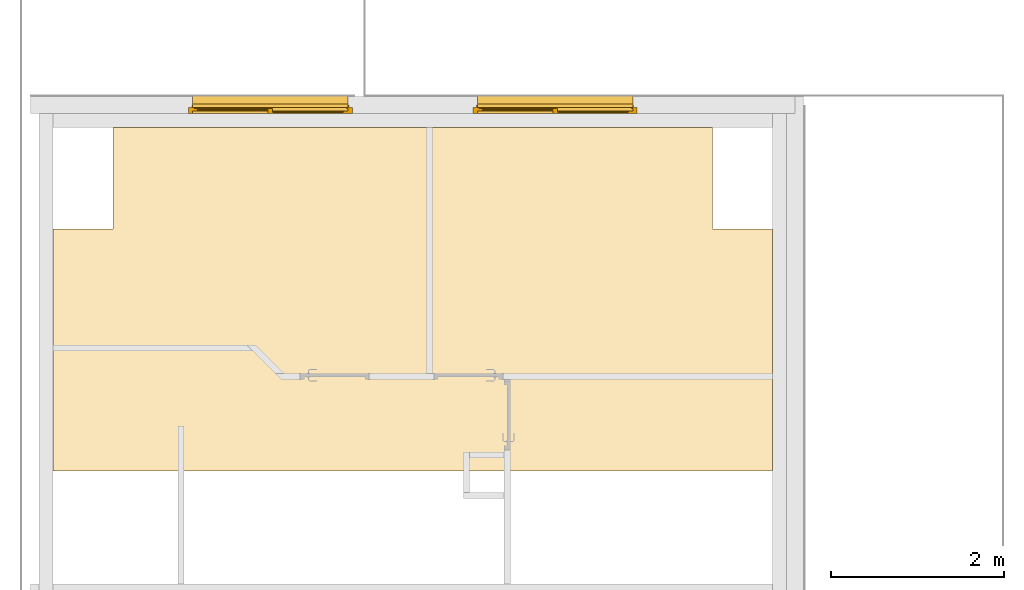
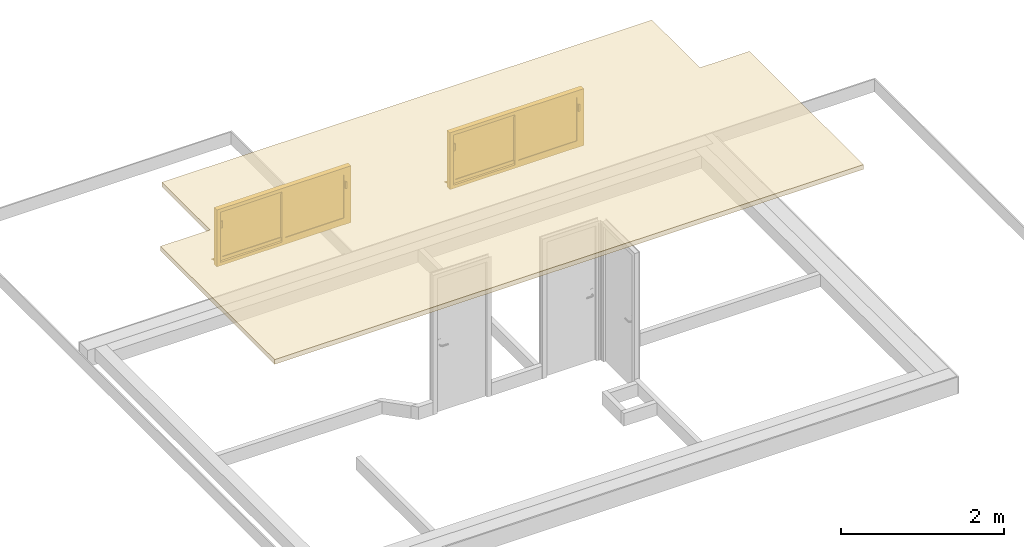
# One storey, part 5 of 5: 2 windows, 1 covering.
"""IFC2X3 building model written with IfcOpenShell, lengths in centimetres."""

import ifcopenshell
import ifcopenshell.guid

model = None  # the IFC model being written
_history = None  # IfcOwnerHistory: only IFC2X3 demands one
_inside = {}  # id of a spatial element -> (the spatial element, [elements in it])
_under = {}  # id of a project, library or spatial element -> (it, [spatial elements below it])
_declared = {}  # id of a project -> (the project, [libraries it declares])
_typed = {}  # id of a type object -> (the type object, [elements of that type])
_made_of = {}  # id of a material, layer set ... -> (it, [elements and type objects made of it])


def new_model(schema):
    """Start an empty IFC model of exactly this schema.

    Asked for "IFC4X3", IfcOpenShell would pick the latest addendum, in which some entities
    have other attributes; the version numbers below select the first issue.
    IFC2X3 requires an IfcOwnerHistory on every rooted entity: one is made here for all.
    """
    global model, _history
    if schema == "IFC4X3":
        model = ifcopenshell.file(schema_version=(4, 3, 0, 0))
    else:
        model = ifcopenshell.file(schema=schema)
    _inside.clear()
    _under.clear()
    _declared.clear()
    _typed.clear()
    _made_of.clear()
    _history = None
    if model.schema == "IFC2X3":
        org = make("IfcOrganization", Name="unknown")
        user = make(
            "IfcPersonAndOrganization",
            ThePerson=make("IfcPerson", FamilyName="unknown"),
            TheOrganization=org,
        )
        app = make(
            "IfcApplication",
            ApplicationDeveloper=org,
            Version="unknown",
            ApplicationFullName="unknown",
            ApplicationIdentifier="unknown",
        )
        _history = make(
            "IfcOwnerHistory",
            OwningUser=user,
            OwningApplication=app,
            ChangeAction="ADDED",
            CreationDate=0,
        )
    return model


def make(cls, **values):
    """One entity of the class cls with the attributes given. An attribute that is None is left unset."""
    return model.create_entity(
        cls, **{name: value for name, value in values.items() if value is not None}
    )


def entity(cls, *values):
    """Any entity or typed value of the class cls, its attributes in the order of the schema. None: left unset."""
    e = model.create_entity(cls)
    for i, value in enumerate(values):
        if value is not None:
            e[i] = value
    return e


def rooted(cls, **values):
    """An entity with a GlobalId (a new one), such as an element, a storey or a relation."""
    return make(cls, GlobalId=ifcopenshell.guid.new(), OwnerHistory=_history, **values)


def si_unit(unit_type, name, prefix=None):
    """IfcSIUnit, for example si_unit("LENGTHUNIT", "METRE", prefix="MILLI")."""
    return make("IfcSIUnit", UnitType=unit_type, Prefix=prefix, Name=name)


def converted_unit(unit_type, name, factor, base, dimensions=None, offset=None):
    """IfcConversionBasedUnit, such as the inch: factor (a typed value) times the base unit."""
    return make(
        "IfcConversionBasedUnit"
        if offset is None
        else "IfcConversionBasedUnitWithOffset",
        ConversionOffset=offset,
        Dimensions=None
        if dimensions is None
        else entity("IfcDimensionalExponents", *dimensions),
        UnitType=unit_type,
        Name=name,
        ConversionFactor=make(
            "IfcMeasureWithUnit", ValueComponent=factor, UnitComponent=base
        ),
    )


def derived_unit(unit_type, elements):
    """IfcDerivedUnit: a product of units, each with its exponent."""
    return make(
        "IfcDerivedUnit",
        Elements=[
            make("IfcDerivedUnitElement", Unit=unit, Exponent=power)
            for unit, power in elements
        ],
        UnitType=unit_type,
    )


def assignment(units):
    """IfcUnitAssignment: the units of a project."""
    return None if units is None else make("IfcUnitAssignment", Units=units)


def point(xyz):
    """IfcCartesianPoint."""
    return None if xyz is None else make("IfcCartesianPoint", Coordinates=xyz)


def direction(xyz):
    """IfcDirection."""
    return None if xyz is None else make("IfcDirection", DirectionRatios=xyz)


def frame(location, z_axis=None, x_axis=None):
    """IfcAxis2Placement3D, a coordinate frame: its origin and axes. An axis left out is left unset."""
    return make(
        "IfcAxis2Placement3D",
        Location=point(location),
        Axis=direction(z_axis),
        RefDirection=direction(x_axis),
    )


def origin():
    """The frame at (0, 0, 0) with its axes left unset."""
    return frame((0.0, 0.0, 0.0))


def place(relative_to, where):
    """IfcLocalPlacement: puts the frame where relative to a parent placement (None: the world)."""
    return make(
        "IfcLocalPlacement", PlacementRelTo=relative_to, RelativePlacement=where
    )


def context(
    kind, dimensions, precision=None, world=None, true_north=None, identifier=None
):
    """IfcGeometricRepresentationContext, for example the 3D "Model" context."""
    return make(
        "IfcGeometricRepresentationContext",
        ContextIdentifier=identifier,
        ContextType=kind,
        CoordinateSpaceDimension=dimensions,
        Precision=precision,
        WorldCoordinateSystem=world,
        TrueNorth=true_north,
    )


def subcontext(parent, identifier, kind, view, scale=None):
    """IfcGeometricRepresentationSubContext, for example "Body" below "Model"."""
    return make(
        "IfcGeometricRepresentationSubContext",
        ContextIdentifier=identifier,
        ContextType=kind,
        ParentContext=parent,
        TargetScale=scale,
        TargetView=view,
    )


def project(units=None, contexts=None):
    """IfcProject with its units and contexts."""
    return rooted(
        "IfcProject",
        Name="project",
        RepresentationContexts=contexts,
        UnitsInContext=assignment(units),
    )


def spatial(cls, under=None, at=None, **own):
    """A site, building, storey or space (cls), placed at a placement, below another one or the project."""
    s = rooted(cls, ObjectPlacement=at, **own)
    if under is not None:
        _under.setdefault(under.id(), (under, []))[1].append(s)
    return s


def polyline(points):
    """IfcPolyline through the points."""
    return make("IfcPolyline", Points=[point(p) for p in points])


def outline(outer, holes=None, kind="AREA"):
    """IfcArbitraryClosedProfileDef: a profile drawn as a closed curve; with holes, ...WithVoids."""
    if holes is None:
        return make("IfcArbitraryClosedProfileDef", ProfileType=kind, OuterCurve=outer)
    return make(
        "IfcArbitraryProfileDefWithVoids",
        ProfileType=kind,
        OuterCurve=outer,
        InnerCurves=holes,
    )


def extrude(swept, where, along, depth):
    """IfcExtrudedAreaSolid: the profile swept, set in the frame where, extruded along a direction by depth."""
    return make(
        "IfcExtrudedAreaSolid",
        SweptArea=swept,
        Position=where,
        ExtrudedDirection=direction(along),
        Depth=depth,
    )


def faces_of(points, faces, orient=None, outer=None):
    """IfcFace entities. A face is a list of loops; a loop is a list of indices into points, from 0.

    orient and outer hold one flag for each loop. By default every Orientation is true, the
    first loop of a face is its IfcFaceOuterBound and the others are IfcFaceBound.
    """
    made = []
    for i, loops in enumerate(faces):
        bounds = []
        for j, loop in enumerate(loops):
            is_outer = j == 0 if outer is None else outer[i][j]
            bounds.append(
                make(
                    "IfcFaceOuterBound" if is_outer else "IfcFaceBound",
                    Bound=make("IfcPolyLoop", Polygon=[points[k] for k in loop]),
                    Orientation=True if orient is None else orient[i][j],
                )
            )
        made.append(make("IfcFace", Bounds=bounds))
    return made


def faceted_brep(points, faces, orient=None, outer=None, voids=None):
    """IfcFacetedBrep: a solid bounded by flat faces; with voids (closed shells), ...WithVoids."""
    shared = [point(p) for p in points]
    hull = make("IfcClosedShell", CfsFaces=faces_of(shared, faces, orient, outer))
    if voids is None:
        return make("IfcFacetedBrep", Outer=hull)
    return make(
        "IfcFacetedBrepWithVoids",
        Outer=hull,
        Voids=[
            make(cls, CfsFaces=faces_of(shared, fs, o, b)) for cls, fs, o, b in voids
        ],
    )


def shape(context_of_items, identifier, shape_type, items):
    """IfcShapeRepresentation: the items that make up one representation, for example the "Body"."""
    return make(
        "IfcShapeRepresentation",
        ContextOfItems=context_of_items,
        RepresentationIdentifier=identifier,
        RepresentationType=shape_type,
        Items=items,
    )


def source(mapping_origin, context_of_items, identifier, shape_type, items):
    """IfcRepresentationMap: a shape defined once, which mapped items show again and again."""
    return make(
        "IfcRepresentationMap",
        MappingOrigin=mapping_origin,
        MappedRepresentation=shape(context_of_items, identifier, shape_type, items),
    )


def transform(
    local_origin,
    x_axis=None,
    y_axis=None,
    z_axis=None,
    scale=None,
    scale2=None,
    scale3=None,
    uniform=True,
):
    """IfcCartesianTransformationOperator3D, or its non-uniform kind. x_axis, y_axis, z_axis: its Axis1, 2, 3."""
    if uniform:
        return make(
            "IfcCartesianTransformationOperator3D",
            Axis1=direction(x_axis),
            Axis2=direction(y_axis),
            LocalOrigin=point(local_origin),
            Scale=scale,
            Axis3=direction(z_axis),
        )
    return make(
        "IfcCartesianTransformationOperator3DnonUniform",
        Axis1=direction(x_axis),
        Axis2=direction(y_axis),
        LocalOrigin=point(local_origin),
        Scale=scale,
        Axis3=direction(z_axis),
        Scale2=scale2,
        Scale3=scale3,
    )


def mapped(mapping_source, mapping_target):
    """IfcMappedItem: shows the shape of a source again, moved by a transform."""
    return make(
        "IfcMappedItem", MappingSource=mapping_source, MappingTarget=mapping_target
    )


def material(Name=None, Category=None):
    """IfcMaterial."""
    return make("IfcMaterial", Name=Name, Category=Category)


def material_list(materials):
    """IfcMaterialList."""
    return make("IfcMaterialList", Materials=materials)


def layer(
    of_material, thickness, ventilated=None, Name=None, Category=None, Priority=None
):
    """IfcMaterialLayer: one layer of a wall or slab, of a material (None: an air gap)."""
    return make(
        "IfcMaterialLayer",
        Material=of_material,
        LayerThickness=thickness,
        IsVentilated=ventilated,
        Name=Name,
        Category=Category,
        Priority=Priority,
    )


def layer_set(layers, Name=None):
    """IfcMaterialLayerSet."""
    return make("IfcMaterialLayerSet", MaterialLayers=layers, LayerSetName=Name)


def layer_usage(for_layer_set, set_direction, sense, offset, extent=None):
    """IfcMaterialLayerSetUsage: how a layer set lies in its element."""
    return make(
        "IfcMaterialLayerSetUsage",
        ForLayerSet=for_layer_set,
        LayerSetDirection=set_direction,
        DirectionSense=sense,
        OffsetFromReferenceLine=offset,
        ReferenceExtent=extent,
    )


def made_of(thing, what):
    """Note that an element or type object is made of a material, layer set ...; save() writes the relation."""
    if what is not None:
        _made_of.setdefault(what.id(), (what, []))[1].append(thing)
    return thing


def type_object(cls, material=None, **own):
    """A type object (cls), such as IfcWallType, which elements share."""
    return made_of(rooted(cls, **own), material)


def type_shapes(of_type, sources):
    """Give a type object the sources (RepresentationMaps) that its elements show as mapped items."""
    of_type.RepresentationMaps = sources


def element(
    cls,
    number,
    at=None,
    inside=None,
    cuts=None,
    type_object=None,
    material=None,
    context=None,
    identifier="Body",
    shape_type=None,
    held_by="IfcProductDefinitionShape",
    body=None,
    shapes=None,
    **own,
):
    """One element of the class cls, such as IfcWall. Its Tag is "e" and its number.

    at: its placement. inside: the storey or other place that contains it. cuts: it is an
    opening in that element (IfcRelVoidsElement). A single representation is given by context,
    identifier, shape_type and body (its items); several are given by shapes. held_by: the class
    of the entity that holds the representations. save() writes the other relations.
    """
    e = rooted(cls, Tag="e%d" % number, ObjectPlacement=at, **own)
    if body is not None:
        shapes = [shape(context, identifier, shape_type, body)]
    if shapes is not None:
        e.Representation = make(held_by, Representations=shapes)
    if inside is not None:
        _inside.setdefault(inside.id(), (inside, []))[1].append(e)
    if cuts is not None:
        rooted(
            "IfcRelVoidsElement", RelatingBuildingElement=cuts, RelatedOpeningElement=e
        )
    if type_object is not None:
        _typed.setdefault(type_object.id(), (type_object, []))[1].append(e)
    return made_of(e, material)


def aggregate(whole, parts):
    """IfcRelAggregates: a whole, such as a stair, and the parts it consists of."""
    return rooted("IfcRelAggregates", RelatingObject=whole, RelatedObjects=parts)


def save(model, path):
    """Write the relations noted so far, then the file.

    IfcRelAggregates (storeys below a building ...), IfcRelContainedInSpatialStructure (elements
    in a storey), IfcRelDefinesByType, IfcRelAssociatesMaterial and IfcRelDeclares: one each for
    every whole, place, type object, material and project.
    """
    for whole, parts in _under.values():
        aggregate(whole, parts)
    for where, things in _inside.values():
        rooted(
            "IfcRelContainedInSpatialStructure",
            RelatedElements=things,
            RelatingStructure=where,
        )
    for kind, things in _typed.values():
        rooted("IfcRelDefinesByType", RelatedObjects=things, RelatingType=kind)
    for what, things in _made_of.values():
        rooted("IfcRelAssociatesMaterial", RelatedObjects=things, RelatingMaterial=what)
    for by, libraries in _declared.values():
        rooted("IfcRelDeclares", RelatingContext=by, RelatedDefinitions=libraries)
    model.write(path)


model = new_model("IFC2X3")

# Units and contexts
model_context = context("Model", 3, precision=0.001, world=origin(), true_north=direction((6.12303176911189e-17, 1.0)))
body_context = subcontext(model_context, "Body", "Model", "MODEL_VIEW")
ifc_project = project(units=[si_unit("LENGTHUNIT", "METRE", prefix="CENTI"), si_unit("AREAUNIT", "SQUARE_METRE"), si_unit("VOLUMEUNIT", "CUBIC_METRE"), converted_unit("PLANEANGLEUNIT", "DEGREE", entity("IfcRatioMeasure", 0.0174532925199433), si_unit("PLANEANGLEUNIT", "RADIAN"), dimensions=[0, 0, 0, 0, 0, 0, 0]), si_unit("MASSUNIT", "GRAM", prefix="KILO"), derived_unit("MASSDENSITYUNIT", [(si_unit("MASSUNIT", "GRAM", prefix="KILO"), 1), (si_unit("LENGTHUNIT", "METRE"), -3)]), derived_unit("MOMENTOFINERTIAUNIT", [(si_unit("LENGTHUNIT", "METRE"), 4)]), si_unit("TIMEUNIT", "SECOND"), si_unit("FREQUENCYUNIT", "HERTZ"), si_unit("THERMODYNAMICTEMPERATUREUNIT", "DEGREE_CELSIUS"), derived_unit("THERMALTRANSMITTANCEUNIT", [(si_unit("MASSUNIT", "GRAM", prefix="KILO"), 1), (si_unit("THERMODYNAMICTEMPERATUREUNIT", "KELVIN"), -1), (si_unit("TIMEUNIT", "SECOND"), -3)]), derived_unit("VOLUMETRICFLOWRATEUNIT", [(si_unit("LENGTHUNIT", "METRE"), 3), (si_unit("TIMEUNIT", "SECOND"), -1)]), si_unit("ELECTRICCURRENTUNIT", "AMPERE"), si_unit("ELECTRICVOLTAGEUNIT", "VOLT"), si_unit("POWERUNIT", "WATT"), si_unit("FORCEUNIT", "NEWTON", prefix="KILO"), si_unit("ILLUMINANCEUNIT", "LUX"), si_unit("LUMINOUSFLUXUNIT", "LUMEN"), si_unit("LUMINOUSINTENSITYUNIT", "CANDELA"), derived_unit("USERDEFINED", [(si_unit("MASSUNIT", "GRAM", prefix="KILO"), -1), (si_unit("LENGTHUNIT", "METRE"), -2), (si_unit("TIMEUNIT", "SECOND"), 3), (si_unit("LUMINOUSFLUXUNIT", "LUMEN"), 1)]), derived_unit("LINEARVELOCITYUNIT", [(si_unit("LENGTHUNIT", "METRE"), 1), (si_unit("TIMEUNIT", "SECOND"), -1)]), si_unit("PRESSUREUNIT", "PASCAL"), derived_unit("USERDEFINED", [(si_unit("LENGTHUNIT", "METRE"), -2), (si_unit("MASSUNIT", "GRAM", prefix="KILO"), 1), (si_unit("TIMEUNIT", "SECOND"), -2)]), derived_unit("LINEARFORCEUNIT", [(si_unit("MASSUNIT", "GRAM", prefix="KILO"), 1), (si_unit("LENGTHUNIT", "METRE"), 1), (si_unit("TIMEUNIT", "SECOND"), -2), (si_unit("LENGTHUNIT", "METRE"), -1)]), derived_unit("PLANARFORCEUNIT", [(si_unit("MASSUNIT", "GRAM", prefix="KILO"), 1), (si_unit("LENGTHUNIT", "METRE"), 1), (si_unit("TIMEUNIT", "SECOND"), -2), (si_unit("LENGTHUNIT", "METRE"), -2)])], contexts=[model_context])

# Site, building, storey
site_placement = place(None, origin())
site = spatial("IfcSite", under=ifc_project, at=site_placement, Name="Surface", CompositionType="ELEMENT")
building_placement = place(site_placement, origin())
building = spatial("IfcBuilding", under=site, at=building_placement, CompositionType="ELEMENT")
storey_placement = place(building_placement, frame((0.0, 0.0, 263.0)))
storey = spatial("IfcBuildingStorey", under=building, at=storey_placement, Name="2.63_Etage", CompositionType="ELEMENT", Elevation=263.0)

# Windows
ifc_material_1 = material(Name="Fenêtre - Poignée")
ifc_material_2 = material(Name="Fenêtre - Appui")
ifc_material_3 = material(Name="Fenêtre - Vitrage")
ifc_material_4 = material(Name="Fenêtre - Cadre")
ifc_material_list_1 = material_list([ifc_material_1, ifc_material_2, ifc_material_3, ifc_material_4])
ifc_material_list_2 = material_list([ifc_material_3, ifc_material_2, ifc_material_4, ifc_material_1])
window_style = type_object("IfcWindowStyle", Name="2 Vantaux coulissants - Droits blanc:180/80", ConstructionType="NOTDEFINED", OperationType="DOUBLE_PANEL_VERTICAL", ParameterTakesPrecedence=False, Sizeable=False, material=ifc_material_list_2)
shared_shape = source(origin(), body_context, "Body", "Brep", [
    faceted_brep([(8.75313182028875, 41.0, 61.9654202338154), (7.09522174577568, 41.0, 61.9654202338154), (7.09522174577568, 41.5000000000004, 61.9654202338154), (8.0, 41.5000000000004, 61.9654202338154), (8.0, 43.0, 61.9654202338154), (9.0, 43.0, 61.9654202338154), (9.0, 41.2468681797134, 61.9654202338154), (8.0, 43.0, 71.9654202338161), (8.0, 41.5000000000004, 71.9654202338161), (7.0952217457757, 41.5000000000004, 71.9654202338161), (7.0952217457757, 41.0, 71.9654202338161), (8.7531318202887, 41.0, 71.9654202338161), (9.0, 41.2468681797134, 71.9654202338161), (9.0, 43.0, 71.9654202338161), (6.50000000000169, 41.5000000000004, 62.5606419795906), (6.50000000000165, 41.5000000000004, 71.370198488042), (6.67433641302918, 41.5000000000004, 71.7910838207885), (6.67433641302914, 41.5000000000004, 62.1397566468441), (6.50000000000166, 41.0, 71.370198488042), (6.50000000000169, 41.0, 62.5606419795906), (6.67433641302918, 41.0, 71.7910838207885), (6.67433641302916, 41.0, 62.1397566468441)], [[[0, 1, 2, 3, 4, 5, 6]], [[7, 8, 9, 10, 11, 12, 13]], [[12, 6, 5, 13]], [[13, 5, 4, 7]], [[7, 4, 3, 8]], [[14, 15, 16, 9, 8, 3, 2, 17]], [[18, 15, 14, 19]], [[1, 0, 11, 10, 20, 18, 19, 21]], [[11, 0, 6, 12]], [[9, 16, 20, 10]], [[15, 18, 20, 16]], [[14, 17, 21, 19]], [[2, 1, 21, 17]]]),
    faceted_brep([(182.0, 38.5000000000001, 61.9654202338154), (182.904778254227, 38.5000000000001, 61.9654202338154), (182.904778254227, 38.0, 61.9654202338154), (181.246868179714, 38.0, 61.9654202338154), (181.0, 38.2468681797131, 61.9654202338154), (181.0, 40.0, 61.9654202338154), (182.0, 40.0, 61.9654202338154), (181.0, 40.0, 71.9654202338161), (181.0, 38.2468681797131, 71.9654202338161), (181.246868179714, 38.0, 71.9654202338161), (182.904778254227, 38.0, 71.9654202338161), (182.904778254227, 38.5000000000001, 71.9654202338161), (182.0, 38.5000000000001, 71.9654202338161), (182.0, 40.0, 71.9654202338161), (183.325663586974, 38.5000000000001, 71.7910838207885), (183.500000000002, 38.5000000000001, 71.370198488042), (183.500000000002, 38.5000000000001, 62.5606419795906), (183.325663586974, 38.5000000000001, 62.1397566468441), (183.500000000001, 38.0, 62.5606419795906), (183.500000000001, 38.0, 71.370198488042), (183.325663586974, 38.0, 62.1397566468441), (183.325663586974, 38.0, 71.7910838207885)], [[[0, 1, 2, 3, 4, 5, 6]], [[7, 8, 9, 10, 11, 12, 13]], [[5, 4, 8, 7]], [[6, 5, 7, 13]], [[0, 6, 13, 12]], [[1, 0, 12, 11, 14, 15, 16, 17]], [[18, 16, 15, 19]], [[20, 18, 19, 21, 10, 9, 3, 2]], [[4, 3, 9, 8]], [[10, 21, 14, 11]], [[14, 21, 19, 15]], [[18, 20, 17, 16]], [[17, 20, 2, 1]]]),
    faceted_brep([(185.0, 61.5000000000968, 4.57203423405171), (185.0, 48.5000000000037, 5.93838929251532), (185.0, 48.5000000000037, 6.96542023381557), (185.0, 48.0, 6.96542023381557), (185.0, 48.0, 5.46542023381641), (185.0, 61.0, 4.0990651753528), (185.0, 61.0, 3.06901470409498), (185.0, 61.5000000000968, 3.01646258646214), (5.0, 61.5000000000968, 4.57203423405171), (5.0, 61.5000000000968, 3.01646258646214), (5.0, 61.0, 3.06901470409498), (5.0, 61.0, 4.0990651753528), (5.0, 48.0, 5.46542023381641), (5.0, 48.0, 6.96542023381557), (5.0, 48.5000000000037, 6.96542023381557), (5.0, 48.5000000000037, 5.93838929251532)], [[[0, 1, 2, 3, 4, 5, 6, 7]], [[8, 9, 10, 11, 12, 13, 14, 15]], [[1, 0, 8, 15]], [[2, 1, 15, 14]], [[3, 2, 14, 13]], [[4, 3, 13, 12]], [[5, 4, 12, 11]], [[6, 5, 11, 10]], [[7, 6, 10, 9]], [[0, 7, 9, 8]]]),
    faceted_brep([(5.0, 61.5000000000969, 4.71462675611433), (5.0, 61.5000000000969, 4.57203423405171), (5.0, 48.5000000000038, 5.93838929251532), (5.0, 48.5000000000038, 6.44114343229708), (5.0, 61.141811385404, 5.11243551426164), (5.0, 61.3972579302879, 4.98227899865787), (5.50000000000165, 48.5000000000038, 6.44114343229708), (5.50000000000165, 48.5000000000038, 5.93838929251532), (5.50000000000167, 61.5000000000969, 4.57203423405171), (5.50000000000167, 61.5000000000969, 4.71462675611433), (5.50000000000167, 61.3972579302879, 4.98227899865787), (5.50000000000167, 61.141811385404, 5.11243551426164)], [[[0, 1, 2, 3, 4, 5]], [[6, 7, 8, 9, 10, 11]], [[2, 1, 8, 7]], [[3, 2, 7, 6]], [[4, 3, 6, 11]], [[4, 11, 10, 5]], [[10, 9, 0, 5]], [[1, 0, 9, 8]]]),
    faceted_brep([(184.500000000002, 61.5000000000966, 4.71462675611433), (184.500000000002, 61.5000000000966, 4.57203423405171), (184.500000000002, 48.5000000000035, 5.93838929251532), (184.500000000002, 48.5000000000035, 6.44114343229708), (184.500000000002, 61.1418113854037, 5.11243551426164), (184.500000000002, 61.3972579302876, 4.98227899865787), (185.0, 48.5000000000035, 6.44114343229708), (185.0, 48.5000000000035, 5.93838929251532), (185.0, 61.5000000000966, 4.57203423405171), (185.0, 61.5000000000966, 4.71462675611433), (185.0, 61.3972579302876, 4.98227899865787), (185.0, 61.1418113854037, 5.11243551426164)], [[[0, 1, 2, 3, 4, 5]], [[6, 7, 8, 9, 10, 11]], [[2, 1, 8, 7]], [[3, 2, 7, 6]], [[4, 3, 6, 11]], [[4, 11, 10, 5]], [[10, 9, 0, 5]], [[1, 0, 9, 8]]]),
    faceted_brep([(92.5000000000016, 45.1000000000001, 81.9654202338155), (92.5000000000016, 45.1000000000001, 16.9654202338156), (10.0, 45.1000000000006, 16.9654202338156), (10.0, 45.1000000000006, 81.9654202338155), (92.5000000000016, 43.9000000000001, 81.9654202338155), (92.5000000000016, 43.9000000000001, 16.9654202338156), (10.0, 43.9000000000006, 16.9654202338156), (10.0, 43.9000000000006, 81.9654202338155)], [[[0, 1, 2, 3]], [[1, 0, 4, 5]], [[2, 1, 5, 6]], [[3, 2, 6, 7]], [[4, 7, 6, 5]], [[0, 3, 7, 4]]]),
    faceted_brep([(97.5000000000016, 46.0, 86.9654202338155), (97.5000000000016, 43.0, 86.9654202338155), (97.5000000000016, 43.0, 11.9654202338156), (97.5000000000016, 46.0, 11.9654202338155), (5.0, 43.0, 11.9654202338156), (5.0, 46.0, 11.9654202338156), (5.0, 43.0, 86.9654202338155), (10.0, 43.0, 16.9654202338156), (10.0, 43.0, 81.9654202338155), (92.5000000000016, 43.0, 81.9654202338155), (92.5000000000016, 43.0, 16.9654202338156), (5.0, 46.0, 86.9654202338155), (92.5000000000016, 46.0, 16.9654202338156), (92.5000000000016, 46.0, 81.9654202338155), (10.0, 46.0, 81.9654202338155), (10.0, 46.0, 16.9654202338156)], [[[0, 1, 2, 3]], [[3, 2, 4, 5]], [[2, 1, 6, 4], [7, 8, 9, 10]], [[5, 4, 6, 11]], [[5, 11, 0, 3], [12, 13, 14, 15]], [[9, 13, 12, 10]], [[10, 12, 15, 7]], [[7, 15, 14, 8]], [[11, 6, 1, 0]], [[8, 14, 13, 9]]]),
    faceted_brep([(97.5000000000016, 42.1000000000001, 16.9654202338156), (97.5000000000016, 42.1000000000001, 81.9654202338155), (180.0, 42.0999999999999, 81.9654202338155), (180.0, 42.0999999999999, 16.9654202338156), (97.5000000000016, 40.9000000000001, 16.9654202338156), (97.5000000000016, 40.9000000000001, 81.9654202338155), (180.0, 40.8999999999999, 81.9654202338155), (180.0, 40.8999999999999, 16.9654202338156)], [[[0, 1, 2, 3]], [[1, 0, 4, 5]], [[3, 2, 6, 7]], [[0, 3, 7, 4]], [[4, 7, 6, 5]], [[2, 1, 5, 6]]]),
    faceted_brep([(97.5000000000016, 43.0, 81.9654202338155), (97.5000000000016, 40.0, 81.9654202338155), (97.5000000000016, 40.0, 16.9654202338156), (97.5000000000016, 43.0, 16.9654202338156), (180.0, 40.0, 16.9654202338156), (180.0, 43.0, 16.9654202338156), (180.0, 40.0, 81.9654202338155), (185.0, 40.0, 11.9654202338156), (185.0, 40.0, 86.9654202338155), (92.5000000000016, 40.0, 86.9654202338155), (92.5000000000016, 40.0, 11.9654202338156), (180.0, 43.0, 81.9654202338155), (92.5000000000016, 43.0, 11.9654202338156), (92.5000000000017, 43.0, 86.9654202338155), (185.0, 43.0, 86.9654202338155), (185.0, 43.0, 11.9654202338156)], [[[0, 1, 2, 3]], [[3, 2, 4, 5]], [[2, 1, 6, 4], [7, 8, 9, 10]], [[5, 4, 6, 11]], [[5, 11, 0, 3], [12, 13, 14, 15]], [[9, 13, 12, 10]], [[10, 12, 15, 7]], [[7, 15, 14, 8]], [[11, 6, 1, 0]], [[8, 14, 13, 9]]], outer=[[True], [True], [False, True], [True], [False, True], [True], [True], [True], [True], [True]]),
    faceted_brep([(0.0, 40.0, 6.96542023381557), (0.0, 47.0, 6.96542023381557), (5.0, 47.0, 6.96542023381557), (5.0, 50.0, 6.96542023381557), (185.0, 50.0, 6.96542023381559), (185.0, 47.0, 6.96542023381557), (190.0, 47.0, 6.96542023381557), (190.0, 40.0, 6.96542023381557), (0.0, 40.0, 91.9654202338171), (0.0, 47.0, 91.9654202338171), (190.0, 47.0, 91.9654202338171), (185.0, 47.0, 10.903034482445), (5.0, 47.0, 10.903034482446), (6.50000000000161, 47.0, 85.4654202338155), (6.50000000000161, 47.0, 13.4654202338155), (183.500000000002, 47.0, 13.4654202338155), (183.500000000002, 47.0, 85.4654202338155), (5.0, 51.0, 9.83123771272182), (5.0, 51.0, 6.46542023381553), (5.0, 50.0, 6.46542023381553), (185.0, 50.0, 6.46542023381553), (185.0, 51.0, 6.46542023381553), (185.0, 51.0, 9.83123771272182), (190.0, 40.0, 91.9654202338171), (185.0, 40.0, 86.9654202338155), (185.0, 40.0, 11.9654202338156), (5.0, 40.0, 11.9654202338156), (5.0, 40.0, 86.9654202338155), (6.50000000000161, 46.0, 85.4654202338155), (6.50000000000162, 46.0, 13.4654202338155), (183.500000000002, 46.0, 13.4654202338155), (183.500000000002, 46.0, 85.4654202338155), (185.0, 46.0, 86.9654202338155), (5.0, 46.0, 86.9654202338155), (5.0, 46.0, 11.9654202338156), (185.0, 46.0, 11.9654202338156)], [[[0, 1, 2, 3, 4, 5, 6, 7]], [[1, 0, 8, 9]], [[1, 9, 10, 6, 5, 11, 12, 2], [13, 14, 15, 16]], [[12, 17, 18, 19, 3, 2]], [[3, 19, 20, 4]], [[4, 20, 21, 22, 11, 5]], [[6, 10, 23, 7]], [[0, 7, 23, 8], [24, 25, 26, 27]], [[13, 28, 29, 14]], [[29, 30, 15, 14]], [[31, 16, 15, 30]], [[17, 12, 11, 22]], [[32, 33, 34, 35], [28, 31, 30, 29]], [[34, 33, 27, 26]], [[26, 25, 35, 34]], [[24, 32, 35, 25]], [[18, 17, 22, 21]], [[19, 18, 21, 20]], [[13, 16, 31, 28]], [[33, 32, 24, 27]], [[10, 9, 8, 23]]]),
    faceted_brep([(5.0, 50.0, 6.96542023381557), (5.0, 47.0, 6.96542023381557), (4.0, 47.0, 6.96542023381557), (4.0, 50.0, 6.96542023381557), (5.0, 50.0, 86.9654202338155), (5.0, 47.0, 86.9654202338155), (185.0, 47.0, 86.9654202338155), (185.0, 47.0, 6.96542023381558), (186.0, 47.0, 6.96542023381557), (186.0, 47.0, 87.9654202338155), (4.0, 47.0, 87.9654202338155), (4.0, 50.0, 87.9654202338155), (186.0, 50.0, 87.9654202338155), (186.0, 50.0, 6.96542023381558), (185.0, 50.0, 6.96542023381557), (185.0, 50.0, 86.9654202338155)], [[[0, 1, 2, 3]], [[1, 0, 4, 5]], [[2, 1, 5, 6, 7, 8, 9, 10]], [[3, 2, 10, 11]], [[0, 3, 11, 12, 13, 14, 15, 4]], [[6, 15, 14, 7]], [[14, 13, 8, 7]], [[12, 9, 8, 13]], [[5, 4, 15, 6]], [[11, 10, 9, 12]]]),
])
type_shapes(window_style, [shared_shape])
window_1_placement = place(storey_placement, frame((-1595.17726031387, 661.992317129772, 73.0345797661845)))
element("IfcWindow", 1, at=window_1_placement, inside=storey, type_object=window_style, material=ifc_material_list_1, Name="2 Vantaux coulissants - Droits blanc:180/80", ObjectType="2 Vantaux coulissants - Droits blanc:180/80", OverallHeight=108.0, OverallWidth=190.000000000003, context=body_context, shape_type="MappedRepresentation", body=[
    mapped(shared_shape, transform((0.0, 0.0, 0.0), scale=1.0)),
])
ifc_material_list_3 = material_list([ifc_material_1, ifc_material_2, ifc_material_3, ifc_material_4])
window_2_placement = place(storey_placement, frame((-1265.17726031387, 661.992317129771, 73.0345797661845)))
element("IfcWindow", 2, at=window_2_placement, inside=storey, type_object=window_style, material=ifc_material_list_3, Name="2 Vantaux coulissants - Droits blanc:180/80", ObjectType="2 Vantaux coulissants - Droits blanc:180/80", OverallHeight=108.0, OverallWidth=190.000000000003, context=body_context, shape_type="MappedRepresentation", body=[
    mapped(shared_shape, transform((0.0, 0.0, 0.0), scale=1.0)),
])

# Covering
ifc_material_5 = material(Name="Maçonnerie - Isolant")
ifc_layer_1 = layer(ifc_material_5, 5.0)
ifc_material_6 = material(Name="Faux-plafond - Trame 600 x 600")
ifc_layer_2 = layer(ifc_material_6, 2.0)
ifc_layer_set = layer_set([ifc_layer_1, ifc_layer_2], Name="Plafond composé:Plafond avec isolation")
ifc_layer_usage = layer_usage(ifc_layer_set, "AXIS3", "POSITIVE", 0.0)
covering_type = type_object("IfcCoveringType", Name="Plafond composé:Plafond avec isolation", PredefinedType="CEILING")
covering_placement = place(storey_placement, origin())
element("IfcCovering", 3, at=covering_placement, inside=storey, type_object=covering_type, material=ifc_layer_usage, Name="Plafond composé:Plafond avec isolation", ObjectType="Plafond composé:Plafond avec isolation", PredefinedType="CEILING", context=body_context, shape_type="SweptSolid", body=[
    extrude(outline(polyline([(-347.0, -158.310393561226), (347.0, -158.310393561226), (347.0, -40.5632021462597), (417.0, -40.5632021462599), (417.0, 239.436797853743), (-417.0, 239.436797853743), (-417.0, -40.5632021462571), (-347.0, -40.5632021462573), (-347.0, -158.310393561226)])), frame((-1335.17726031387, 527.681923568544, 240.0), z_axis=(0.0, 0.0, 1.0), x_axis=(-1.0, 0.0, 0.0)), (0.0, 0.0, 1.0), 7.00000000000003),
])

save(model, "model.ifc")
